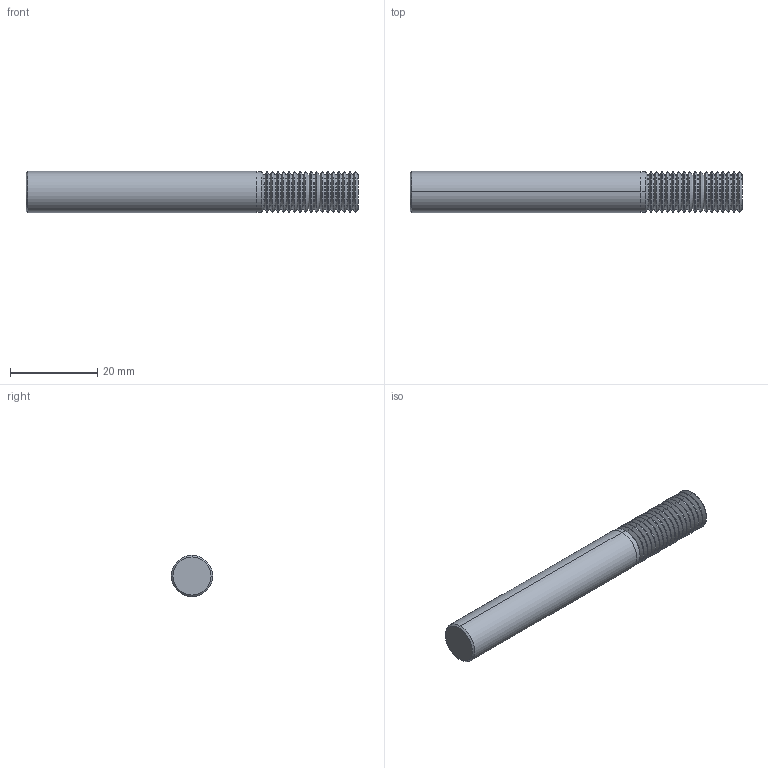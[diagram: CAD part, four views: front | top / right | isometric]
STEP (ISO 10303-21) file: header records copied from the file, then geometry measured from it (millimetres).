
FILE_DESCRIPTION (( 'STEP AP214' ), '1' );
FILE_NAME ('103034-TMI370-20HA.STEP', '2025-06-24T16:21:08', ( '' ), ( '' ), 'SwSTEP 2.0', 'SolidWorks 2024', '' );
FILE_SCHEMA (( 'AUTOMOTIVE_DESIGN' ));
Length unit declared in the file: inch
Products named in the file (1): 103034-TMI370-20HA
Bounding box: 76.2 x 9.52 x 9.52 mm (x, y, z)
Volume: 5107.2 mm3; surface area: 2753.6 mm2
Topology: 1 solids, 1 shells, 150 faces, 298 edges, 150 vertices
Faces by surface type: cylinder 74, cone 74, plane 2
Entity records: 3771 total; most frequent: DIRECTION 750, CARTESIAN_POINT 599, ORIENTED_EDGE 596, AXIS2_PLACEMENT_3D 301, EDGE_CURVE 298, VERTEX_POINT 150, EDGE_LOOP 150, FACE_OUTER_BOUND 150
